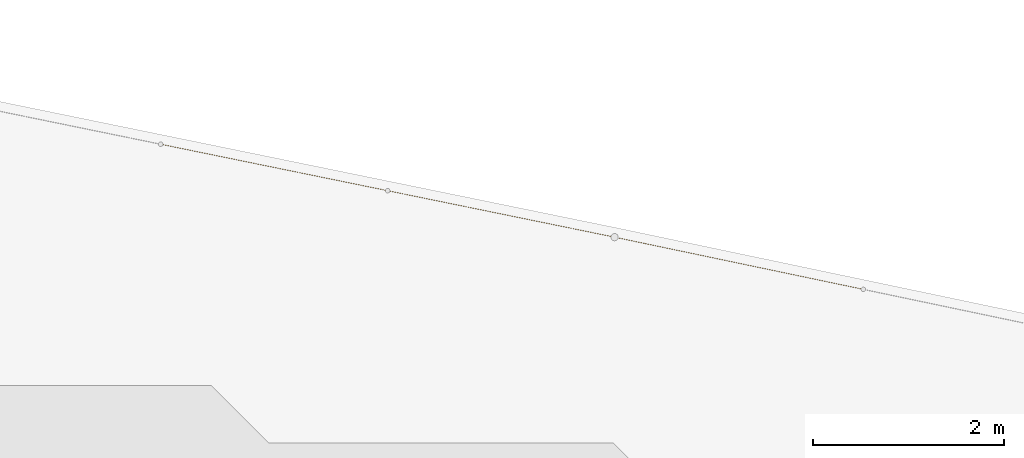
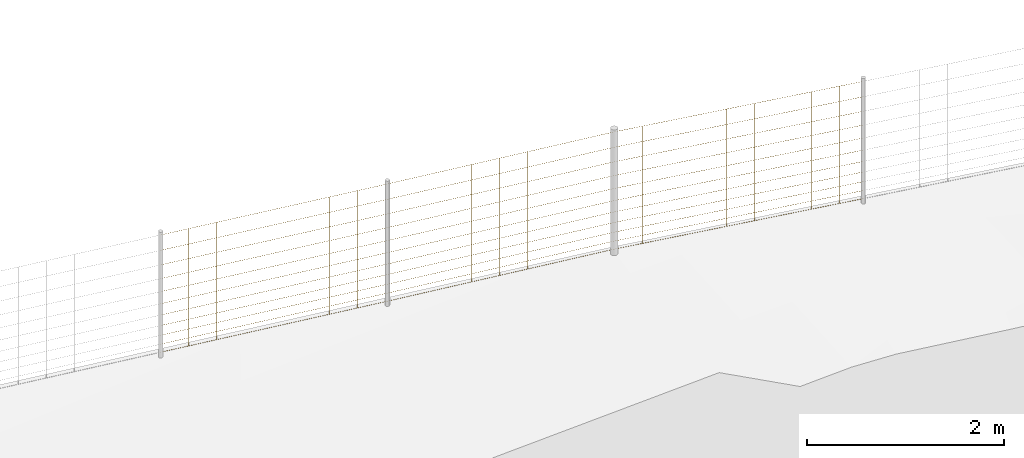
# Not in any storey, part 44 of 72: 3 railings.
"""IFC4 model written with IfcOpenShell, lengths in metres."""

from ifc_helpers import new_model, si_unit, direction, frame, origin_with_axes, place, context, subcontext, project, spatial, polygons, material, element, save


model = new_model("IFC4")

# Units and contexts
model_context = context("Model", 3, precision=1e-05, world=origin_with_axes(), true_north=direction((0.0, 1.0)))
body_context = subcontext(model_context, "Body", "Model", "MODEL_VIEW")
ifc_project = project(units=[si_unit("VOLUMEUNIT", "CUBIC_METRE"), si_unit("LENGTHUNIT", "METRE"), si_unit("AREAUNIT", "SQUARE_METRE")], contexts=[model_context])

# Site
site_placement = place(None, origin_with_axes())
site = spatial("IfcSite", under=ifc_project, at=site_placement, Name="Lares · Rua das Mercês · artigo 4771")

# Railings
ifc_material = material(Name="Aço galvanizado / Stahl verzinkt", Category="steel")
railing_1_placement = place(site_placement, frame((0.0, 0.0, 0.0), z_axis=(0.0, 0.0, 1.0), x_axis=(1.0, -1.03767253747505e-17, 0.0)))
element("IfcRailing", 1, at=railing_1_placement, inside=site, material=ifc_material, Name="Vedação · rede ovelheira 1.066", ObjectType="SHEEP_WIRE_FENCE", PredefinedType="USERDEFINED", context=body_context, shape_type="Tessellation", body=[
    polygons([(41.3623935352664, 16.3609122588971, 14.9529065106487), (41.3627520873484, 16.3623699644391, 14.9514076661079), (41.3629953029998, 16.3638512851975, 14.9529065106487), (41.3626367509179, 16.3623935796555, 14.9544053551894), (43.7345466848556, 15.8752122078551, 15.0480016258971), (43.7349052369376, 15.8766699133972, 15.0465027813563), (43.7351484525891, 15.8781512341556, 15.0480016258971), (43.7347899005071, 15.8766935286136, 15.0495004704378), (41.3623935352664, 16.3609122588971, 15.0529065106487), (41.3627520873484, 16.3623699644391, 15.0514076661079), (41.3629953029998, 16.3638512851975, 15.0529065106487), (41.3626367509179, 16.3623935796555, 15.0544053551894), (43.7345466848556, 15.8752122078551, 15.1480016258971), (43.7349052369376, 15.8766699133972, 15.1465027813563), (43.7351484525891, 15.8781512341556, 15.1480016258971), (43.7347899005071, 15.8766935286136, 15.1495004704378), (41.3623935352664, 16.3609122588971, 15.1629065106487), (41.3627520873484, 16.3623699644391, 15.1614076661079), (41.3629953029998, 16.3638512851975, 15.1629065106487), (41.3626367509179, 16.3623935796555, 15.1644053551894), (43.7345466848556, 15.8752122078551, 15.2580016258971), (43.7349052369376, 15.8766699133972, 15.2565027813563), (43.7351484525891, 15.8781512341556, 15.2580016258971), (43.7347899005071, 15.8766935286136, 15.2595004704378), (41.3623935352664, 16.3609122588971, 15.2829065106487), (41.3627520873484, 16.3623699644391, 15.2814076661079), (41.3629953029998, 16.3638512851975, 15.2829065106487), (41.3626367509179, 16.3623935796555, 15.2844053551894), (43.7345466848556, 15.8752122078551, 15.3780016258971), (43.7349052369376, 15.8766699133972, 15.3765027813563), (43.7351484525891, 15.8781512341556, 15.3780016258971), (43.7347899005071, 15.8766935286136, 15.3795004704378), (41.3623935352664, 16.3609122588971, 15.4129065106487), (41.3627520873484, 16.3623699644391, 15.4114076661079), (41.3629953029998, 16.3638512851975, 15.4129065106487), (41.3626367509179, 16.3623935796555, 15.4144053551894), (43.7345466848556, 15.8752122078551, 15.5080016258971), (43.7349052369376, 15.8766699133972, 15.5065027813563), (43.7351484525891, 15.8781512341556, 15.5080016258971), (43.7347899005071, 15.8766935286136, 15.5095004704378), (41.3623935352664, 16.3609122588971, 15.5529065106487), (41.3627520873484, 16.3623699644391, 15.5514076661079), (41.3629953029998, 16.3638512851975, 15.5529065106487), (41.3626367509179, 16.3623935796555, 15.5544053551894), (43.7345466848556, 15.8752122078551, 15.6480016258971), (43.7349052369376, 15.8766699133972, 15.6465027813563), (43.7351484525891, 15.8781512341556, 15.6480016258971), (43.7347899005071, 15.8766935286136, 15.6495004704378), (41.3623935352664, 16.3609122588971, 15.7029065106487), (41.3627520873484, 16.3623699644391, 15.7014076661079), (41.3629953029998, 16.3638512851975, 15.7029065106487), (41.3626367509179, 16.3623935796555, 15.7044053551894), (43.7345466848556, 15.8752122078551, 15.7980016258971), (43.7349052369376, 15.8766699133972, 15.7965027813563), (43.7351484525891, 15.8781512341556, 15.7980016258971), (43.7347899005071, 15.8766935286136, 15.7995004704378), (41.3623935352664, 16.3609122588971, 15.8629065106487), (41.3627520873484, 16.3623699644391, 15.8614076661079), (41.3629953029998, 16.3638512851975, 15.8629065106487), (41.3626367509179, 16.3623935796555, 15.8644053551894), (43.7345466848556, 15.8752122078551, 15.9580016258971), (43.7349052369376, 15.8766699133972, 15.9565027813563), (43.7351484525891, 15.8781512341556, 15.9580016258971), (43.7347899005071, 15.8766935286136, 15.9595004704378), (41.3623935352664, 16.3609122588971, 16.0329065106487), (41.3627520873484, 16.3623699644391, 16.0314076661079), (41.3629953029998, 16.3638512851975, 16.0329065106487), (41.3626367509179, 16.3623935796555, 16.0344053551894), (43.7345466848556, 15.8752122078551, 16.1280016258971), (43.7349052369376, 15.8766699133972, 16.1265027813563), (43.7351484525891, 15.8781512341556, 16.1280016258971), (43.7347899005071, 15.8766935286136, 16.1295004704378), (41.3623935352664, 16.3609122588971, 16.2129065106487), (41.3627520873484, 16.3623699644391, 16.2114076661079), (41.3629953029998, 16.3638512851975, 16.2129065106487), (41.3626367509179, 16.3623935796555, 16.2144053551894), (43.7345466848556, 15.8752122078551, 16.3080016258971), (43.7349052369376, 15.8766699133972, 16.3065027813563), (43.7351484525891, 15.8781512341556, 16.3080016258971), (43.7347899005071, 15.8766935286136, 16.3095004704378), (41.3623935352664, 16.3609122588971, 16.4029065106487), (41.3627520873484, 16.3623699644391, 16.4014076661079), (41.3629953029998, 16.3638512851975, 16.4029065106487), (41.3626367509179, 16.3623935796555, 16.4044053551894), (43.7345466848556, 15.8752122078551, 16.4980016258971), (43.7349052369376, 15.8766699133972, 16.4965027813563), (43.7351484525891, 15.8781512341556, 16.4980016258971), (43.7347899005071, 15.8766935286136, 16.4995004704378), (41.6565970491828, 16.3037049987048, 14.9646885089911), (41.6550970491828, 16.3022049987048, 14.9646885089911), (41.6565970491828, 16.3007049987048, 14.9646885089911), (41.6580970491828, 16.3022049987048, 14.9646885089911), (41.6565970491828, 16.3037049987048, 16.4146885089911), (41.6550970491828, 16.3022049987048, 16.4146885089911), (41.6565970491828, 16.3007049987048, 16.4146885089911), (41.6580970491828, 16.3022049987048, 16.4146885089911), (41.9504996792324, 16.2435282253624, 14.9764705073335), (41.9489996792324, 16.2420282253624, 14.9764705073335), (41.9504996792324, 16.2405282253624, 14.9764705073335), (41.9519996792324, 16.2420282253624, 14.9764705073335), (41.9504996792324, 16.2435282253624, 16.4264705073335), (41.9489996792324, 16.2420282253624, 16.4264705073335), (41.9504996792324, 16.2405282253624, 16.4264705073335), (41.9519996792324, 16.2420282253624, 16.4264705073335), (42.244402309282, 16.1833514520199, 14.9882525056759), (42.242902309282, 16.1818514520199, 14.9882525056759), (42.244402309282, 16.1803514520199, 14.9882525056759), (42.245902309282, 16.1818514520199, 14.9882525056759), (42.244402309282, 16.1833514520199, 16.4382525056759), (42.242902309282, 16.1818514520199, 16.4382525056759), (42.244402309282, 16.1803514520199, 16.4382525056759), (42.245902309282, 16.1818514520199, 16.4382525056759), (42.5383049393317, 16.1231746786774, 15.0000345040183), (42.5368049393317, 16.1216746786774, 15.0000345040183), (42.5383049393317, 16.1201746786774, 15.0000345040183), (42.5398049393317, 16.1216746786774, 15.0000345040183), (42.5383049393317, 16.1231746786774, 16.4500345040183), (42.5368049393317, 16.1216746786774, 16.4500345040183), (42.5383049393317, 16.1201746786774, 16.4500345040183), (42.5398049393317, 16.1216746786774, 16.4500345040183), (42.8322075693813, 16.062997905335, 15.0118165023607), (42.8307075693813, 16.061497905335, 15.0118165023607), (42.8322075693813, 16.059997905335, 15.0118165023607), (42.8337075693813, 16.061497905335, 15.0118165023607), (42.8322075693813, 16.062997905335, 16.4618165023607), (42.8307075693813, 16.061497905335, 16.4618165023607), (42.8322075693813, 16.059997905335, 16.4618165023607), (42.8337075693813, 16.061497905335, 16.4618165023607), (43.1261101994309, 16.0028211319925, 15.0235985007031), (43.1246101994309, 16.0013211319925, 15.0235985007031), (43.1261101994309, 15.9998211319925, 15.0235985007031), (43.1276101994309, 16.0013211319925, 15.0235985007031), (43.1261101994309, 16.0028211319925, 16.4735985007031), (43.1246101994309, 16.0013211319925, 16.4735985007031), (43.1261101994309, 15.9998211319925, 16.4735985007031), (43.1276101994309, 16.0013211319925, 16.4735985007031), (43.4200128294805, 15.94264435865, 15.0353804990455), (43.4185128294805, 15.94114435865, 15.0353804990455), (43.4200128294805, 15.93964435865, 15.0353804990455), (43.4215128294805, 15.94114435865, 15.0353804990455), (43.4200128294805, 15.94264435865, 16.4853804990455), (43.4185128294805, 15.94114435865, 16.4853804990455), (43.4200128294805, 15.93964435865, 16.4853804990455), (43.4215128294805, 15.94114435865, 16.4853804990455)], [[[4, 3, 2, 1]], [[5, 6, 7, 8]], [[1, 2, 6, 5]], [[2, 3, 7, 6]], [[3, 4, 8, 7]], [[4, 1, 5, 8]], [[12, 11, 10, 9]], [[13, 14, 15, 16]], [[9, 10, 14, 13]], [[10, 11, 15, 14]], [[11, 12, 16, 15]], [[12, 9, 13, 16]], [[20, 19, 18, 17]], [[21, 22, 23, 24]], [[17, 18, 22, 21]], [[18, 19, 23, 22]], [[19, 20, 24, 23]], [[20, 17, 21, 24]], [[28, 27, 26, 25]], [[29, 30, 31, 32]], [[25, 26, 30, 29]], [[26, 27, 31, 30]], [[27, 28, 32, 31]], [[28, 25, 29, 32]], [[36, 35, 34, 33]], [[37, 38, 39, 40]], [[33, 34, 38, 37]], [[34, 35, 39, 38]], [[35, 36, 40, 39]], [[36, 33, 37, 40]], [[44, 43, 42, 41]], [[45, 46, 47, 48]], [[41, 42, 46, 45]], [[42, 43, 47, 46]], [[43, 44, 48, 47]], [[44, 41, 45, 48]], [[52, 51, 50, 49]], [[53, 54, 55, 56]], [[49, 50, 54, 53]], [[50, 51, 55, 54]], [[51, 52, 56, 55]], [[52, 49, 53, 56]], [[60, 59, 58, 57]], [[61, 62, 63, 64]], [[57, 58, 62, 61]], [[58, 59, 63, 62]], [[59, 60, 64, 63]], [[60, 57, 61, 64]], [[68, 67, 66, 65]], [[69, 70, 71, 72]], [[65, 66, 70, 69]], [[66, 67, 71, 70]], [[67, 68, 72, 71]], [[68, 65, 69, 72]], [[76, 75, 74, 73]], [[77, 78, 79, 80]], [[73, 74, 78, 77]], [[74, 75, 79, 78]], [[75, 76, 80, 79]], [[76, 73, 77, 80]], [[84, 83, 82, 81]], [[85, 86, 87, 88]], [[81, 82, 86, 85]], [[82, 83, 87, 86]], [[83, 84, 88, 87]], [[84, 81, 85, 88]], [[92, 91, 90, 89]], [[93, 94, 95, 96]], [[89, 90, 94, 93]], [[90, 91, 95, 94]], [[91, 92, 96, 95]], [[92, 89, 93, 96]], [[100, 99, 98, 97]], [[101, 102, 103, 104]], [[97, 98, 102, 101]], [[98, 99, 103, 102]], [[99, 100, 104, 103]], [[100, 97, 101, 104]], [[108, 107, 106, 105]], [[109, 110, 111, 112]], [[105, 106, 110, 109]], [[106, 107, 111, 110]], [[107, 108, 112, 111]], [[108, 105, 109, 112]], [[116, 115, 114, 113]], [[117, 118, 119, 120]], [[113, 114, 118, 117]], [[114, 115, 119, 118]], [[115, 116, 120, 119]], [[116, 113, 117, 120]], [[124, 123, 122, 121]], [[125, 126, 127, 128]], [[121, 122, 126, 125]], [[122, 123, 127, 126]], [[123, 124, 128, 127]], [[124, 121, 125, 128]], [[132, 131, 130, 129]], [[133, 134, 135, 136]], [[129, 130, 134, 133]], [[130, 131, 135, 134]], [[131, 132, 136, 135]], [[132, 129, 133, 136]], [[140, 139, 138, 137]], [[141, 142, 143, 144]], [[137, 138, 142, 141]], [[138, 139, 143, 142]], [[139, 140, 144, 143]], [[140, 137, 141, 144]]]),
])
railing_2_placement = place(site_placement, frame((0.0, 0.0, 0.0), z_axis=(0.0, 0.0, 1.0), x_axis=(1.0, -1.03767253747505e-17, 0.0)))
element("IfcRailing", 2, at=railing_2_placement, inside=site, material=ifc_material, Name="Vedação · rede ovelheira 1.067", ObjectType="SHEEP_WIRE_FENCE", PredefinedType="USERDEFINED", context=body_context, shape_type="Tessellation", body=[
    polygons([(43.7345466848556, 15.8752122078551, 15.0480016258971), (43.7349129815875, 15.8766683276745, 15.0465031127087), (43.7351484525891, 15.8781512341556, 15.0480016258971), (43.7347821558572, 15.8766951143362, 15.0495001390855), (46.1066998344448, 15.3895121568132, 15.1558915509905), (46.1070661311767, 15.3909682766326, 15.1543930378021), (46.1073016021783, 15.3924511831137, 15.1558915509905), (46.1069353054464, 15.3909950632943, 15.1573900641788), (43.7345466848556, 15.8752122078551, 15.1480016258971), (43.7349129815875, 15.8766683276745, 15.1465031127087), (43.7351484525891, 15.8781512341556, 15.1480016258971), (43.7347821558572, 15.8766951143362, 15.1495001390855), (46.1066998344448, 15.3895121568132, 15.2558915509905), (46.1070661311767, 15.3909682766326, 15.2543930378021), (46.1073016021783, 15.3924511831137, 15.2558915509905), (46.1069353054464, 15.3909950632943, 15.2573900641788), (43.7345466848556, 15.8752122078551, 15.2580016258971), (43.7349129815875, 15.8766683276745, 15.2565031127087), (43.7351484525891, 15.8781512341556, 15.2580016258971), (43.7347821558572, 15.8766951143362, 15.2595001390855), (46.1066998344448, 15.3895121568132, 15.3658915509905), (46.1070661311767, 15.3909682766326, 15.3643930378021), (46.1073016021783, 15.3924511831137, 15.3658915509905), (46.1069353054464, 15.3909950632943, 15.3673900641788), (43.7345466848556, 15.8752122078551, 15.3780016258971), (43.7349129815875, 15.8766683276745, 15.3765031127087), (43.7351484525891, 15.8781512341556, 15.3780016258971), (43.7347821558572, 15.8766951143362, 15.3795001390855), (46.1066998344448, 15.3895121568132, 15.4858915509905), (46.1070661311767, 15.3909682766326, 15.4843930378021), (46.1073016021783, 15.3924511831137, 15.4858915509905), (46.1069353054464, 15.3909950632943, 15.4873900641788), (43.7345466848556, 15.8752122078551, 15.5080016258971), (43.7349129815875, 15.8766683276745, 15.5065031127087), (43.7351484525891, 15.8781512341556, 15.5080016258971), (43.7347821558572, 15.8766951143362, 15.5095001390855), (46.1066998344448, 15.3895121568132, 15.6158915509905), (46.1070661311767, 15.3909682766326, 15.6143930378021), (46.1073016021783, 15.3924511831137, 15.6158915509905), (46.1069353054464, 15.3909950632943, 15.6173900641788), (43.7345466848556, 15.8752122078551, 15.6480016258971), (43.7349129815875, 15.8766683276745, 15.6465031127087), (43.7351484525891, 15.8781512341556, 15.6480016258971), (43.7347821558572, 15.8766951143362, 15.6495001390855), (46.1066998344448, 15.3895121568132, 15.7558915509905), (46.1070661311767, 15.3909682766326, 15.7543930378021), (46.1073016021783, 15.3924511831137, 15.7558915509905), (46.1069353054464, 15.3909950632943, 15.7573900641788), (43.7345466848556, 15.8752122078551, 15.7980016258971), (43.7349129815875, 15.8766683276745, 15.7965031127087), (43.7351484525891, 15.8781512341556, 15.7980016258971), (43.7347821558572, 15.8766951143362, 15.7995001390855), (46.1066998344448, 15.3895121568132, 15.9058915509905), (46.1070661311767, 15.3909682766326, 15.9043930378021), (46.1073016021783, 15.3924511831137, 15.9058915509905), (46.1069353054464, 15.3909950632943, 15.9073900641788), (43.7345466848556, 15.8752122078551, 15.9580016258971), (43.7349129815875, 15.8766683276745, 15.9565031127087), (43.7351484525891, 15.8781512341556, 15.9580016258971), (43.7347821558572, 15.8766951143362, 15.9595001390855), (46.1066998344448, 15.3895121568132, 16.0658915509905), (46.1070661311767, 15.3909682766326, 16.0643930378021), (46.1073016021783, 15.3924511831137, 16.0658915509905), (46.1069353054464, 15.3909950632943, 16.0673900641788), (43.7345466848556, 15.8752122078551, 16.1280016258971), (43.7349129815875, 15.8766683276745, 16.1265031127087), (43.7351484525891, 15.8781512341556, 16.1280016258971), (43.7347821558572, 15.8766951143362, 16.1295001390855), (46.1066998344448, 15.3895121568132, 16.2358915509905), (46.1070661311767, 15.3909682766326, 16.2343930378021), (46.1073016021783, 15.3924511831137, 16.2358915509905), (46.1069353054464, 15.3909950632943, 16.2373900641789), (43.7345466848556, 15.8752122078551, 16.3080016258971), (43.7349129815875, 15.8766683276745, 16.3065031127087), (43.7351484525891, 15.8781512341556, 16.3080016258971), (43.7347821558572, 15.8766951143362, 16.3095001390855), (46.1066998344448, 15.3895121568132, 16.4158915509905), (46.1070661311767, 15.3909682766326, 16.4143930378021), (46.1073016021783, 15.3924511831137, 16.4158915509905), (46.1069353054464, 15.3909950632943, 16.4173900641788), (43.7345466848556, 15.8752122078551, 16.4980016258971), (43.7349129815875, 15.8766683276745, 16.4965031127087), (43.7351484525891, 15.8781512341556, 16.4980016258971), (43.7347821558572, 15.8766951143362, 16.4995001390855), (46.1066998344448, 15.3895121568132, 16.6058915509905), (46.1070661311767, 15.3909682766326, 16.6043930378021), (46.1073016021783, 15.3924511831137, 16.6058915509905), (46.1069353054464, 15.3909950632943, 16.6073900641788), (44.028750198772, 15.8180049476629, 15.0613688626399), (44.027250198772, 15.8165049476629, 15.0613688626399), (44.028750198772, 15.8150049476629, 15.0613688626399), (44.030250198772, 15.8165049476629, 15.0613688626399), (44.028750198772, 15.8180049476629, 16.5113688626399), (44.027250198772, 15.8165049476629, 16.5113688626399), (44.028750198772, 15.8150049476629, 16.5113688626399), (44.030250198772, 15.8165049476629, 16.5113688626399), (44.3226528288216, 15.7578281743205, 15.0747360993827), (44.3211528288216, 15.7563281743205, 15.0747360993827), (44.3226528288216, 15.7548281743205, 15.0747360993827), (44.3241528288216, 15.7563281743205, 15.0747360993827), (44.3226528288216, 15.7578281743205, 16.5247360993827), (44.3211528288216, 15.7563281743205, 16.5247360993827), (44.3226528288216, 15.7548281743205, 16.5247360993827), (44.3241528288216, 15.7563281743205, 16.5247360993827), (44.6165554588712, 15.697651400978, 15.0881033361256), (44.6150554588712, 15.696151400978, 15.0881033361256), (44.6165554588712, 15.694651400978, 15.0881033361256), (44.6180554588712, 15.696151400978, 15.0881033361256), (44.6165554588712, 15.697651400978, 16.5381033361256), (44.6150554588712, 15.696151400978, 16.5381033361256), (44.6165554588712, 15.694651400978, 16.5381033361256), (44.6180554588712, 15.696151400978, 16.5381033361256), (44.9104580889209, 15.6374746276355, 15.1014705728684), (44.9089580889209, 15.6359746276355, 15.1014705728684), (44.9104580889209, 15.6344746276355, 15.1014705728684), (44.9119580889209, 15.6359746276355, 15.1014705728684), (44.9104580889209, 15.6374746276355, 16.5514705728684), (44.9089580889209, 15.6359746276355, 16.5514705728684), (44.9104580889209, 15.6344746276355, 16.5514705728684), (44.9119580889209, 15.6359746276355, 16.5514705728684), (45.2043607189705, 15.577297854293, 15.1148378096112), (45.2028607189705, 15.575797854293, 15.1148378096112), (45.2043607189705, 15.574297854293, 15.1148378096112), (45.2058607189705, 15.575797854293, 15.1148378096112), (45.2043607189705, 15.577297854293, 16.5648378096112), (45.2028607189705, 15.575797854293, 16.5648378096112), (45.2043607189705, 15.574297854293, 16.5648378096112), (45.2058607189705, 15.575797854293, 16.5648378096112), (45.4982633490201, 15.5171210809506, 15.128205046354), (45.4967633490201, 15.5156210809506, 15.128205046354), (45.4982633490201, 15.5141210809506, 15.128205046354), (45.4997633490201, 15.5156210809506, 15.128205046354), (45.4982633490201, 15.5171210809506, 16.5782050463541), (45.4967633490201, 15.5156210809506, 16.5782050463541), (45.4982633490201, 15.5141210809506, 16.5782050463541), (45.4997633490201, 15.5156210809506, 16.5782050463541), (45.7921659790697, 15.4569443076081, 15.1415722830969), (45.7906659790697, 15.4554443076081, 15.1415722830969), (45.7921659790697, 15.4539443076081, 15.1415722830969), (45.7936659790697, 15.4554443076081, 15.1415722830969), (45.7921659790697, 15.4569443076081, 16.5915722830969), (45.7906659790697, 15.4554443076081, 16.5915722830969), (45.7921659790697, 15.4539443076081, 16.5915722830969), (45.7936659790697, 15.4554443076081, 16.5915722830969)], [[[4, 3, 2, 1]], [[5, 6, 7, 8]], [[1, 2, 6, 5]], [[2, 3, 7, 6]], [[3, 4, 8, 7]], [[4, 1, 5, 8]], [[12, 11, 10, 9]], [[13, 14, 15, 16]], [[9, 10, 14, 13]], [[10, 11, 15, 14]], [[11, 12, 16, 15]], [[12, 9, 13, 16]], [[20, 19, 18, 17]], [[21, 22, 23, 24]], [[17, 18, 22, 21]], [[18, 19, 23, 22]], [[19, 20, 24, 23]], [[20, 17, 21, 24]], [[28, 27, 26, 25]], [[29, 30, 31, 32]], [[25, 26, 30, 29]], [[26, 27, 31, 30]], [[27, 28, 32, 31]], [[28, 25, 29, 32]], [[36, 35, 34, 33]], [[37, 38, 39, 40]], [[33, 34, 38, 37]], [[34, 35, 39, 38]], [[35, 36, 40, 39]], [[36, 33, 37, 40]], [[44, 43, 42, 41]], [[45, 46, 47, 48]], [[41, 42, 46, 45]], [[42, 43, 47, 46]], [[43, 44, 48, 47]], [[44, 41, 45, 48]], [[52, 51, 50, 49]], [[53, 54, 55, 56]], [[49, 50, 54, 53]], [[50, 51, 55, 54]], [[51, 52, 56, 55]], [[52, 49, 53, 56]], [[60, 59, 58, 57]], [[61, 62, 63, 64]], [[57, 58, 62, 61]], [[58, 59, 63, 62]], [[59, 60, 64, 63]], [[60, 57, 61, 64]], [[68, 67, 66, 65]], [[69, 70, 71, 72]], [[65, 66, 70, 69]], [[66, 67, 71, 70]], [[67, 68, 72, 71]], [[68, 65, 69, 72]], [[76, 75, 74, 73]], [[77, 78, 79, 80]], [[73, 74, 78, 77]], [[74, 75, 79, 78]], [[75, 76, 80, 79]], [[76, 73, 77, 80]], [[84, 83, 82, 81]], [[85, 86, 87, 88]], [[81, 82, 86, 85]], [[82, 83, 87, 86]], [[83, 84, 88, 87]], [[84, 81, 85, 88]], [[92, 91, 90, 89]], [[93, 94, 95, 96]], [[89, 90, 94, 93]], [[90, 91, 95, 94]], [[91, 92, 96, 95]], [[92, 89, 93, 96]], [[100, 99, 98, 97]], [[101, 102, 103, 104]], [[97, 98, 102, 101]], [[98, 99, 103, 102]], [[99, 100, 104, 103]], [[100, 97, 101, 104]], [[108, 107, 106, 105]], [[109, 110, 111, 112]], [[105, 106, 110, 109]], [[106, 107, 111, 110]], [[107, 108, 112, 111]], [[108, 105, 109, 112]], [[116, 115, 114, 113]], [[117, 118, 119, 120]], [[113, 114, 118, 117]], [[114, 115, 119, 118]], [[115, 116, 120, 119]], [[116, 113, 117, 120]], [[124, 123, 122, 121]], [[125, 126, 127, 128]], [[121, 122, 126, 125]], [[122, 123, 127, 126]], [[123, 124, 128, 127]], [[124, 121, 125, 128]], [[132, 131, 130, 129]], [[133, 134, 135, 136]], [[129, 130, 134, 133]], [[130, 131, 135, 134]], [[131, 132, 136, 135]], [[132, 129, 133, 136]], [[140, 139, 138, 137]], [[141, 142, 143, 144]], [[137, 138, 142, 141]], [[138, 139, 143, 142]], [[139, 140, 144, 143]], [[140, 137, 141, 144]]]),
])
railing_3_placement = place(site_placement, frame((0.0, 0.0, 0.0), z_axis=(0.0, 0.0, 1.0), x_axis=(1.0, -1.03767253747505e-17, 0.0)))
element("IfcRailing", 3, at=railing_3_placement, inside=site, material=ifc_material, Name="Vedação · rede ovelheira 1.068", ObjectType="SHEEP_WIRE_FENCE", PredefinedType="USERDEFINED", context=body_context, shape_type="Tessellation", body=[
    polygons([(46.1066926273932, 15.3895136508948, 15.1558915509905), (46.1070259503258, 15.3909763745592, 15.1543917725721), (46.1073088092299, 15.3924496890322, 15.1558915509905), (46.1069754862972, 15.3909869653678, 15.1573913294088), (48.7068138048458, 14.8438301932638, 15.2015622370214), (48.7071471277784, 14.8452929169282, 15.2000624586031), (48.7074299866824, 14.8467662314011, 15.2015622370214), (48.7070966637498, 14.8453035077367, 15.2030620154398), (46.1066926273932, 15.3895136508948, 15.2558915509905), (46.1070259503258, 15.3909763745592, 15.2543917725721), (46.1073088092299, 15.3924496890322, 15.2558915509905), (46.1069754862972, 15.3909869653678, 15.2573913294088), (48.7068138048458, 14.8438301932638, 15.3015622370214), (48.7071471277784, 14.8452929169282, 15.3000624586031), (48.7074299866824, 14.8467662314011, 15.3015622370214), (48.7070966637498, 14.8453035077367, 15.3030620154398), (46.1066926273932, 15.3895136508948, 15.3658915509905), (46.1070259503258, 15.3909763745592, 15.3643917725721), (46.1073088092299, 15.3924496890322, 15.3658915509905), (46.1069754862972, 15.3909869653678, 15.3673913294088), (48.7068138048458, 14.8438301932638, 15.4115622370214), (48.7071471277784, 14.8452929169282, 15.4100624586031), (48.7074299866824, 14.8467662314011, 15.4115622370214), (48.7070966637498, 14.8453035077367, 15.4130620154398), (46.1066926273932, 15.3895136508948, 15.4858915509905), (46.1070259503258, 15.3909763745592, 15.4843917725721), (46.1073088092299, 15.3924496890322, 15.4858915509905), (46.1069754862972, 15.3909869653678, 15.4873913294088), (48.7068138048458, 14.8438301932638, 15.5315622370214), (48.7071471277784, 14.8452929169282, 15.5300624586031), (48.7074299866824, 14.8467662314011, 15.5315622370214), (48.7070966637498, 14.8453035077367, 15.5330620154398), (46.1066926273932, 15.3895136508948, 15.6158915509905), (46.1070259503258, 15.3909763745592, 15.6143917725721), (46.1073088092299, 15.3924496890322, 15.6158915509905), (46.1069754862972, 15.3909869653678, 15.6173913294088), (48.7068138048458, 14.8438301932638, 15.6615622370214), (48.7071471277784, 14.8452929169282, 15.6600624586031), (48.7074299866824, 14.8467662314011, 15.6615622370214), (48.7070966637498, 14.8453035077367, 15.6630620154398), (46.1066926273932, 15.3895136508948, 15.7558915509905), (46.1070259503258, 15.3909763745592, 15.7543917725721), (46.1073088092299, 15.3924496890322, 15.7558915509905), (46.1069754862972, 15.3909869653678, 15.7573913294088), (48.7068138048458, 14.8438301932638, 15.8015622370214), (48.7071471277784, 14.8452929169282, 15.8000624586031), (48.7074299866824, 14.8467662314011, 15.8015622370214), (48.7070966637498, 14.8453035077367, 15.8030620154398), (46.1066926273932, 15.3895136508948, 15.9058915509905), (46.1070259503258, 15.3909763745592, 15.9043917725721), (46.1073088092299, 15.3924496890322, 15.9058915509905), (46.1069754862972, 15.3909869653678, 15.9073913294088), (48.7068138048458, 14.8438301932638, 15.9515622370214), (48.7071471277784, 14.8452929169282, 15.9500624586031), (48.7074299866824, 14.8467662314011, 15.9515622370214), (48.7070966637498, 14.8453035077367, 15.9530620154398), (46.1066926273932, 15.3895136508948, 16.0658915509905), (46.1070259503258, 15.3909763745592, 16.0643917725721), (46.1073088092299, 15.3924496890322, 16.0658915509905), (46.1069754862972, 15.3909869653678, 16.0673913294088), (48.7068138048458, 14.8438301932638, 16.1115622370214), (48.7071471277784, 14.8452929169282, 16.1100624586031), (48.7074299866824, 14.8467662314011, 16.1115622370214), (48.7070966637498, 14.8453035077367, 16.1130620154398), (46.1066926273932, 15.3895136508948, 16.2358915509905), (46.1070259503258, 15.3909763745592, 16.2343917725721), (46.1073088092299, 15.3924496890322, 16.2358915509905), (46.1069754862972, 15.3909869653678, 16.2373913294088), (48.7068138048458, 14.8438301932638, 16.2815622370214), (48.7071471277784, 14.8452929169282, 16.2800624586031), (48.7074299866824, 14.8467662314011, 16.2815622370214), (48.7070966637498, 14.8453035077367, 16.2830620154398), (46.1066926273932, 15.3895136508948, 16.4158915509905), (46.1070259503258, 15.3909763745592, 16.4143917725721), (46.1073088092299, 15.3924496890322, 16.4158915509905), (46.1069754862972, 15.3909869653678, 16.4173913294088), (48.7068138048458, 14.8438301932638, 16.4615622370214), (48.7071471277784, 14.8452929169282, 16.4600624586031), (48.7074299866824, 14.8467662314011, 16.4615622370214), (48.7070966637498, 14.8453035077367, 16.4630620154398), (46.1066926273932, 15.3895136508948, 16.6058915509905), (46.1070259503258, 15.3909763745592, 16.6043917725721), (46.1073088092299, 15.3924496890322, 16.6058915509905), (46.1069754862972, 15.3909869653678, 16.6073913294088), (48.7068138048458, 14.8438301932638, 16.6515622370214), (48.7071471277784, 14.8452929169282, 16.6500624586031), (48.7074299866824, 14.8467662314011, 16.6515622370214), (48.7070966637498, 14.8453035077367, 16.6530620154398), (46.4006045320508, 15.3308634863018, 15.1610486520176), (46.3991045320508, 15.3293634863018, 15.1610486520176), (46.4006045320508, 15.3278634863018, 15.1610486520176), (46.4021045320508, 15.3293634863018, 15.1610486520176), (46.4006045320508, 15.3308634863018, 16.6110486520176), (46.3991045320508, 15.3293634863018, 16.6110486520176), (46.4006045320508, 15.3278634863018, 16.6110486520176), (46.4021045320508, 15.3293634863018, 16.6110486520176), (46.6942083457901, 15.2692453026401, 15.1662057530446), (46.6927083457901, 15.2677453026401, 15.1662057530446), (46.6942083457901, 15.2662453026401, 15.1662057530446), (46.6957083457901, 15.2677453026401, 15.1662057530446), (46.6942083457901, 15.2692453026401, 16.6162057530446), (46.6927083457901, 15.2677453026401, 16.6162057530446), (46.6942083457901, 15.2662453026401, 16.6162057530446), (46.6957083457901, 15.2677453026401, 16.6162057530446), (46.9878121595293, 15.2076271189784, 15.1713628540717), (46.9863121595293, 15.2061271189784, 15.1713628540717), (46.9878121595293, 15.2046271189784, 15.1713628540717), (46.9893121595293, 15.2061271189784, 15.1713628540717), (46.9878121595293, 15.2076271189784, 16.6213628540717), (46.9863121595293, 15.2061271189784, 16.6213628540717), (46.9878121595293, 15.2046271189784, 16.6213628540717), (46.9893121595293, 15.2061271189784, 16.6213628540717), (47.2814159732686, 15.1460089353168, 15.1765199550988), (47.2799159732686, 15.1445089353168, 15.1765199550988), (47.2814159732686, 15.1430089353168, 15.1765199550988), (47.2829159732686, 15.1445089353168, 15.1765199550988), (47.2814159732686, 15.1460089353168, 16.6265199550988), (47.2799159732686, 15.1445089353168, 16.6265199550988), (47.2814159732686, 15.1430089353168, 16.6265199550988), (47.2829159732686, 15.1445089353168, 16.6265199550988), (47.5750197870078, 15.0843907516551, 15.1816770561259), (47.5735197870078, 15.0828907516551, 15.1816770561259), (47.5750197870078, 15.0813907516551, 15.1816770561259), (47.5765197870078, 15.0828907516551, 15.1816770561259), (47.5750197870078, 15.0843907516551, 16.6316770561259), (47.5735197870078, 15.0828907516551, 16.6316770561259), (47.5750197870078, 15.0813907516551, 16.6316770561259), (47.5765197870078, 15.0828907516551, 16.6316770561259), (47.8686236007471, 15.0227725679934, 15.186834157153), (47.8671236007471, 15.0212725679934, 15.186834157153), (47.8686236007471, 15.0197725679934, 15.186834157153), (47.8701236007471, 15.0212725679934, 15.186834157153), (47.8686236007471, 15.0227725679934, 16.636834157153), (47.8671236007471, 15.0212725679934, 16.636834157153), (47.8686236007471, 15.0197725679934, 16.636834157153), (47.8701236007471, 15.0212725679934, 16.636834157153), (48.1622274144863, 14.9611543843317, 15.1919912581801), (48.1607274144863, 14.9596543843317, 15.1919912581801), (48.1622274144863, 14.9581543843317, 15.1919912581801), (48.1637274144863, 14.9596543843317, 15.1919912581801), (48.1622274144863, 14.9611543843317, 16.6419912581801), (48.1607274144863, 14.9596543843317, 16.6419912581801), (48.1622274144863, 14.9581543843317, 16.6419912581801), (48.1637274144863, 14.9596543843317, 16.6419912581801), (48.4558312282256, 14.89953620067, 15.1971483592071), (48.4543312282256, 14.89803620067, 15.1971483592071), (48.4558312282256, 14.89653620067, 15.1971483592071), (48.4573312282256, 14.89803620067, 15.1971483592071), (48.4558312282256, 14.89953620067, 16.6471483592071), (48.4543312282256, 14.89803620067, 16.6471483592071), (48.4558312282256, 14.89653620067, 16.6471483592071), (48.4573312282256, 14.89803620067, 16.6471483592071)], [[[4, 3, 2, 1]], [[5, 6, 7, 8]], [[1, 2, 6, 5]], [[2, 3, 7, 6]], [[3, 4, 8, 7]], [[4, 1, 5, 8]], [[12, 11, 10, 9]], [[13, 14, 15, 16]], [[9, 10, 14, 13]], [[10, 11, 15, 14]], [[11, 12, 16, 15]], [[12, 9, 13, 16]], [[20, 19, 18, 17]], [[21, 22, 23, 24]], [[17, 18, 22, 21]], [[18, 19, 23, 22]], [[19, 20, 24, 23]], [[20, 17, 21, 24]], [[28, 27, 26, 25]], [[29, 30, 31, 32]], [[25, 26, 30, 29]], [[26, 27, 31, 30]], [[27, 28, 32, 31]], [[28, 25, 29, 32]], [[36, 35, 34, 33]], [[37, 38, 39, 40]], [[33, 34, 38, 37]], [[34, 35, 39, 38]], [[35, 36, 40, 39]], [[36, 33, 37, 40]], [[44, 43, 42, 41]], [[45, 46, 47, 48]], [[41, 42, 46, 45]], [[42, 43, 47, 46]], [[43, 44, 48, 47]], [[44, 41, 45, 48]], [[52, 51, 50, 49]], [[53, 54, 55, 56]], [[49, 50, 54, 53]], [[50, 51, 55, 54]], [[51, 52, 56, 55]], [[52, 49, 53, 56]], [[60, 59, 58, 57]], [[61, 62, 63, 64]], [[57, 58, 62, 61]], [[58, 59, 63, 62]], [[59, 60, 64, 63]], [[60, 57, 61, 64]], [[68, 67, 66, 65]], [[69, 70, 71, 72]], [[65, 66, 70, 69]], [[66, 67, 71, 70]], [[67, 68, 72, 71]], [[68, 65, 69, 72]], [[76, 75, 74, 73]], [[77, 78, 79, 80]], [[73, 74, 78, 77]], [[74, 75, 79, 78]], [[75, 76, 80, 79]], [[76, 73, 77, 80]], [[84, 83, 82, 81]], [[85, 86, 87, 88]], [[81, 82, 86, 85]], [[82, 83, 87, 86]], [[83, 84, 88, 87]], [[84, 81, 85, 88]], [[92, 91, 90, 89]], [[93, 94, 95, 96]], [[89, 90, 94, 93]], [[90, 91, 95, 94]], [[91, 92, 96, 95]], [[92, 89, 93, 96]], [[100, 99, 98, 97]], [[101, 102, 103, 104]], [[97, 98, 102, 101]], [[98, 99, 103, 102]], [[99, 100, 104, 103]], [[100, 97, 101, 104]], [[108, 107, 106, 105]], [[109, 110, 111, 112]], [[105, 106, 110, 109]], [[106, 107, 111, 110]], [[107, 108, 112, 111]], [[108, 105, 109, 112]], [[116, 115, 114, 113]], [[117, 118, 119, 120]], [[113, 114, 118, 117]], [[114, 115, 119, 118]], [[115, 116, 120, 119]], [[116, 113, 117, 120]], [[124, 123, 122, 121]], [[125, 126, 127, 128]], [[121, 122, 126, 125]], [[122, 123, 127, 126]], [[123, 124, 128, 127]], [[124, 121, 125, 128]], [[132, 131, 130, 129]], [[133, 134, 135, 136]], [[129, 130, 134, 133]], [[130, 131, 135, 134]], [[131, 132, 136, 135]], [[132, 129, 133, 136]], [[140, 139, 138, 137]], [[141, 142, 143, 144]], [[137, 138, 142, 141]], [[138, 139, 143, 142]], [[139, 140, 144, 143]], [[140, 137, 141, 144]], [[148, 147, 146, 145]], [[149, 150, 151, 152]], [[145, 146, 150, 149]], [[146, 147, 151, 150]], [[147, 148, 152, 151]], [[148, 145, 149, 152]]]),
])

save(model, "model.ifc")
